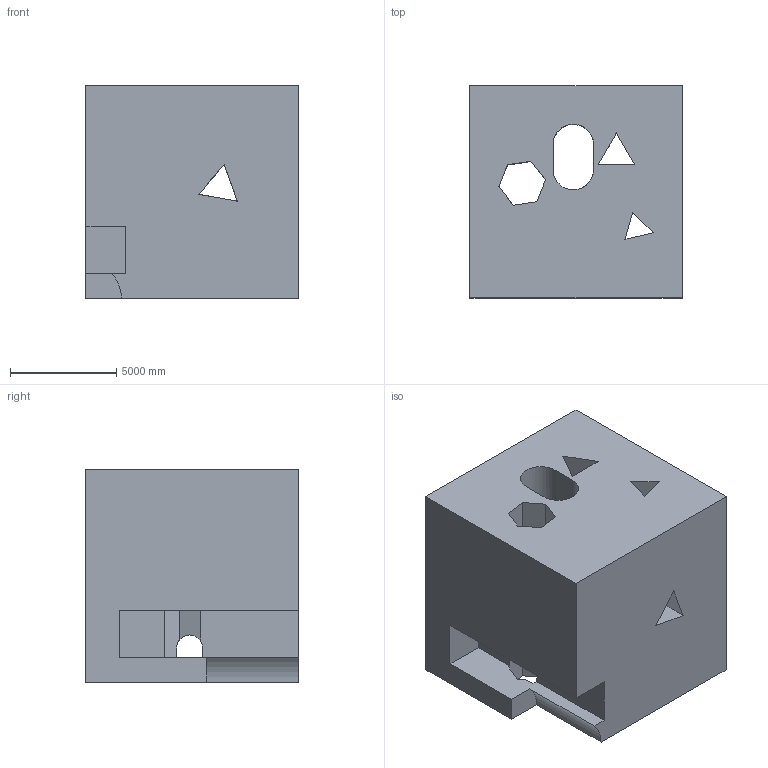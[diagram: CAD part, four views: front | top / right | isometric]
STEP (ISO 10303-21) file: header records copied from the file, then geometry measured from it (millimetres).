
FILE_DESCRIPTION (( 'STEP AP203' ), '1' );
FILE_NAME ('1936.STEP', '2022-08-23T09:41:15', ( 'user' ), ( '' ), 'SwSTEP 2.0', 'SolidWorks 2021', '' );
FILE_SCHEMA (( 'CONFIG_CONTROL_DESIGN' ));
Length unit declared in the file: centimetre
Products named in the file (1): 1936
Bounding box: 10000 x 10000 x 10000 mm (x, y, z)
Volume: 805838697586.5 mm3; surface area: 904389908.6 mm2
Topology: 1 solids, 1 shells, 55 faces, 186 edges, 124 vertices
Faces by surface type: plane 48, cylinder 7
Entity records: 2467 total; most frequent: CARTESIAN_POINT 764, ORIENTED_EDGE 372, DIRECTION 300, EDGE_CURVE 186, LINE 160, VECTOR 160, VERTEX_POINT 124, AXIS2_PLACEMENT_3D 70
